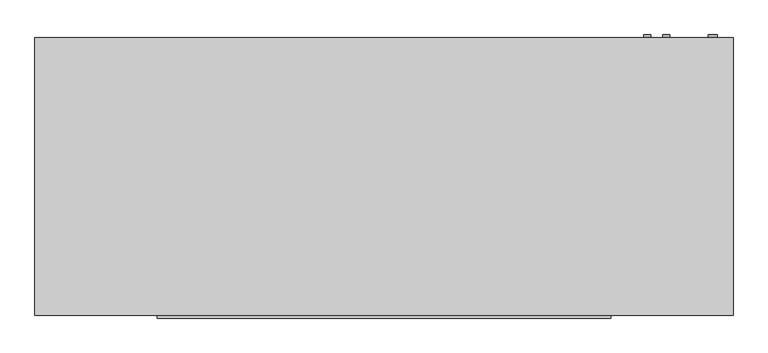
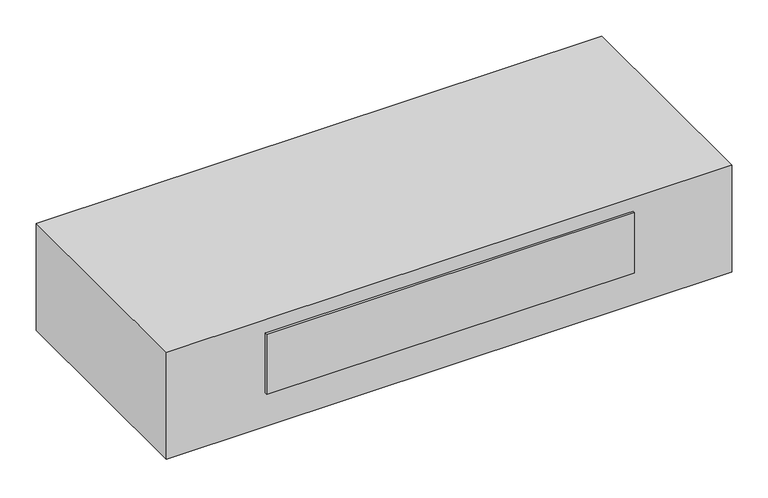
"""IFC4 building model written with IfcOpenShell, lengths in millimetres: proxy geometry, Exposed_Horizontal_Fan_Coil_Unit_-_42CGB_-_CARRIER_-_2-Pipe_Cool-EHeat_FS-BR_RH_2022 : Size 08 - 277v/60Hz/1Ph - 4 Row 6.0kW."""

import ifcopenshell
import ifcopenshell.guid

model = None  # the IFC model being written
_history = None  # IfcOwnerHistory: only IFC2X3 demands one
_inside = {}  # id of a spatial element -> (the spatial element, [elements in it])
_under = {}  # id of a project, library or spatial element -> (it, [spatial elements below it])
_declared = {}  # id of a project -> (the project, [libraries it declares])
_typed = {}  # id of a type object -> (the type object, [elements of that type])
_made_of = {}  # id of a material, layer set ... -> (it, [elements and type objects made of it])


def new_model(schema):
    """Start an empty IFC model of exactly this schema.

    Asked for "IFC4X3", IfcOpenShell would pick the latest addendum, in which some entities
    have other attributes; the version numbers below select the first issue.
    IFC2X3 requires an IfcOwnerHistory on every rooted entity: one is made here for all.
    """
    global model, _history
    if schema == "IFC4X3":
        model = ifcopenshell.file(schema_version=(4, 3, 0, 0))
    else:
        model = ifcopenshell.file(schema=schema)
    _inside.clear()
    _under.clear()
    _declared.clear()
    _typed.clear()
    _made_of.clear()
    _history = None
    if model.schema == "IFC2X3":
        org = make("IfcOrganization", Name="unknown")
        user = make(
            "IfcPersonAndOrganization",
            ThePerson=make("IfcPerson", FamilyName="unknown"),
            TheOrganization=org,
        )
        app = make(
            "IfcApplication",
            ApplicationDeveloper=org,
            Version="unknown",
            ApplicationFullName="unknown",
            ApplicationIdentifier="unknown",
        )
        _history = make(
            "IfcOwnerHistory",
            OwningUser=user,
            OwningApplication=app,
            ChangeAction="ADDED",
            CreationDate=0,
        )
    return model


def make(cls, **values):
    """One entity of the class cls with the attributes given. An attribute that is None is left unset."""
    return model.create_entity(
        cls, **{name: value for name, value in values.items() if value is not None}
    )


def rooted(cls, **values):
    """An entity with a GlobalId (a new one), such as an element, a storey or a relation."""
    return make(cls, GlobalId=ifcopenshell.guid.new(), OwnerHistory=_history, **values)


def si_unit(unit_type, name, prefix=None):
    """IfcSIUnit, for example si_unit("LENGTHUNIT", "METRE", prefix="MILLI")."""
    return make("IfcSIUnit", UnitType=unit_type, Prefix=prefix, Name=name)


def assignment(units):
    """IfcUnitAssignment: the units of a project."""
    return None if units is None else make("IfcUnitAssignment", Units=units)


def point(xyz):
    """IfcCartesianPoint."""
    return None if xyz is None else make("IfcCartesianPoint", Coordinates=xyz)


def direction(xyz):
    """IfcDirection."""
    return None if xyz is None else make("IfcDirection", DirectionRatios=xyz)


def frame(location, z_axis=None, x_axis=None):
    """IfcAxis2Placement3D, a coordinate frame: its origin and axes. An axis left out is left unset."""
    return make(
        "IfcAxis2Placement3D",
        Location=point(location),
        Axis=direction(z_axis),
        RefDirection=direction(x_axis),
    )


def frame_2d(location, x_axis=None):
    """IfcAxis2Placement2D, a coordinate frame in the plane: its origin and x axis."""
    return make(
        "IfcAxis2Placement2D", Location=point(location), RefDirection=direction(x_axis)
    )


def origin():
    """The frame at (0, 0, 0) with its axes left unset."""
    return frame((0.0, 0.0, 0.0))


def place(relative_to, where):
    """IfcLocalPlacement: puts the frame where relative to a parent placement (None: the world)."""
    return make(
        "IfcLocalPlacement", PlacementRelTo=relative_to, RelativePlacement=where
    )


def context(
    kind, dimensions, precision=None, world=None, true_north=None, identifier=None
):
    """IfcGeometricRepresentationContext, for example the 3D "Model" context."""
    return make(
        "IfcGeometricRepresentationContext",
        ContextIdentifier=identifier,
        ContextType=kind,
        CoordinateSpaceDimension=dimensions,
        Precision=precision,
        WorldCoordinateSystem=world,
        TrueNorth=true_north,
    )


def project(units=None, contexts=None):
    """IfcProject with its units and contexts."""
    return rooted(
        "IfcProject",
        Name="project",
        RepresentationContexts=contexts,
        UnitsInContext=assignment(units),
    )


def spatial(cls, under=None, at=None, **own):
    """A site, building, storey or space (cls), placed at a placement, below another one or the project."""
    s = rooted(cls, ObjectPlacement=at, **own)
    if under is not None:
        _under.setdefault(under.id(), (under, []))[1].append(s)
    return s


def polyline(points):
    """IfcPolyline through the points."""
    return make("IfcPolyline", Points=[point(p) for p in points])


def circle_curve(where, radius):
    """IfcCircle in the frame where."""
    return make("IfcCircle", Position=where, Radius=radius)


def trimmed(basis, trim1, trim2, sense, master):
    """IfcTrimmedCurve: the piece of a basis curve between two trims."""
    return make(
        "IfcTrimmedCurve",
        BasisCurve=basis,
        Trim1=trim1,
        Trim2=trim2,
        SenseAgreement=sense,
        MasterRepresentation=master,
    )


def segment(curve, same_sense, transition):
    """IfcCompositeCurveSegment."""
    return make(
        "IfcCompositeCurveSegment",
        Transition=transition,
        SameSense=same_sense,
        ParentCurve=curve,
    )


def composite_curve(segments, self_intersect=None):
    """IfcCompositeCurve: segments joined end to end."""
    return make("IfcCompositeCurve", Segments=segments, SelfIntersect=self_intersect)


def outline(outer, holes=None, kind="AREA"):
    """IfcArbitraryClosedProfileDef: a profile drawn as a closed curve; with holes, ...WithVoids."""
    if holes is None:
        return make("IfcArbitraryClosedProfileDef", ProfileType=kind, OuterCurve=outer)
    return make(
        "IfcArbitraryProfileDefWithVoids",
        ProfileType=kind,
        OuterCurve=outer,
        InnerCurves=holes,
    )


def extrude(swept, where, along, depth):
    """IfcExtrudedAreaSolid: the profile swept, set in the frame where, extruded along a direction by depth."""
    return make(
        "IfcExtrudedAreaSolid",
        SweptArea=swept,
        Position=where,
        ExtrudedDirection=direction(along),
        Depth=depth,
    )


def shape(context_of_items, identifier, shape_type, items):
    """IfcShapeRepresentation: the items that make up one representation, for example the "Body"."""
    return make(
        "IfcShapeRepresentation",
        ContextOfItems=context_of_items,
        RepresentationIdentifier=identifier,
        RepresentationType=shape_type,
        Items=items,
    )


def source(mapping_origin, context_of_items, identifier, shape_type, items):
    """IfcRepresentationMap: a shape defined once, which mapped items show again and again."""
    return make(
        "IfcRepresentationMap",
        MappingOrigin=mapping_origin,
        MappedRepresentation=shape(context_of_items, identifier, shape_type, items),
    )


def transform(
    local_origin,
    x_axis=None,
    y_axis=None,
    z_axis=None,
    scale=None,
    scale2=None,
    scale3=None,
    uniform=True,
):
    """IfcCartesianTransformationOperator3D, or its non-uniform kind. x_axis, y_axis, z_axis: its Axis1, 2, 3."""
    if uniform:
        return make(
            "IfcCartesianTransformationOperator3D",
            Axis1=direction(x_axis),
            Axis2=direction(y_axis),
            LocalOrigin=point(local_origin),
            Scale=scale,
            Axis3=direction(z_axis),
        )
    return make(
        "IfcCartesianTransformationOperator3DnonUniform",
        Axis1=direction(x_axis),
        Axis2=direction(y_axis),
        LocalOrigin=point(local_origin),
        Scale=scale,
        Axis3=direction(z_axis),
        Scale2=scale2,
        Scale3=scale3,
    )


def mapped(mapping_source, mapping_target):
    """IfcMappedItem: shows the shape of a source again, moved by a transform."""
    return make(
        "IfcMappedItem", MappingSource=mapping_source, MappingTarget=mapping_target
    )


def made_of(thing, what):
    """Note that an element or type object is made of a material, layer set ...; save() writes the relation."""
    if what is not None:
        _made_of.setdefault(what.id(), (what, []))[1].append(thing)
    return thing


def element(
    cls,
    number,
    at=None,
    inside=None,
    cuts=None,
    type_object=None,
    material=None,
    context=None,
    identifier="Body",
    shape_type=None,
    held_by="IfcProductDefinitionShape",
    body=None,
    shapes=None,
    **own,
):
    """One element of the class cls, such as IfcWall. Its Tag is "e" and its number.

    at: its placement. inside: the storey or other place that contains it. cuts: it is an
    opening in that element (IfcRelVoidsElement). A single representation is given by context,
    identifier, shape_type and body (its items); several are given by shapes. held_by: the class
    of the entity that holds the representations. save() writes the other relations.
    """
    e = rooted(cls, Tag="e%d" % number, ObjectPlacement=at, **own)
    if body is not None:
        shapes = [shape(context, identifier, shape_type, body)]
    if shapes is not None:
        e.Representation = make(held_by, Representations=shapes)
    if inside is not None:
        _inside.setdefault(inside.id(), (inside, []))[1].append(e)
    if cuts is not None:
        rooted(
            "IfcRelVoidsElement", RelatingBuildingElement=cuts, RelatedOpeningElement=e
        )
    if type_object is not None:
        _typed.setdefault(type_object.id(), (type_object, []))[1].append(e)
    return made_of(e, material)


def aggregate(whole, parts):
    """IfcRelAggregates: a whole, such as a stair, and the parts it consists of."""
    return rooted("IfcRelAggregates", RelatingObject=whole, RelatedObjects=parts)


def save(model, path):
    """Write the relations noted so far, then the file.

    IfcRelAggregates (storeys below a building ...), IfcRelContainedInSpatialStructure (elements
    in a storey), IfcRelDefinesByType, IfcRelAssociatesMaterial and IfcRelDeclares: one each for
    every whole, place, type object, material and project.
    """
    for whole, parts in _under.values():
        aggregate(whole, parts)
    for where, things in _inside.values():
        rooted(
            "IfcRelContainedInSpatialStructure",
            RelatedElements=things,
            RelatingStructure=where,
        )
    for kind, things in _typed.values():
        rooted("IfcRelDefinesByType", RelatedObjects=things, RelatingType=kind)
    for what, things in _made_of.values():
        rooted("IfcRelAssociatesMaterial", RelatedObjects=things, RelatingMaterial=what)
    for by, libraries in _declared.values():
        rooted("IfcRelDeclares", RelatingContext=by, RelatedDefinitions=libraries)
    model.write(path)


def mechanical_equipment_21327851(model_context):
    return source(origin(), model_context, "Body", "SweptSolid", [
        extrude(outline(composite_curve([segment(trimmed(circle_curve(frame_2d((-60.325, 727.075)), 7.9375), [point((-60.325, 735.0125))], [point((-60.325, 719.1375))], False, "CARTESIAN"), True, "CONTINUOUS"), segment(trimmed(circle_curve(frame_2d((-60.325, 727.075)), 7.9375), [point((-60.325, 719.1375))], [point((-60.325, 735.0125))], False, "CARTESIAN"), True, "CONTINUOUS")], self_intersect=False)), frame((0.0, 65.0875, 0.0), z_axis=(0.0, 1.0, 0.0), x_axis=(0.0, 0.0, 1.0)), (0.0, 0.0, 1.0), 6.35),
        extrude(outline(composite_curve([segment(trimmed(circle_curve(frame_2d((-95.25, 768.35)), 7.9375), [point((-95.25, 776.2875))], [point((-95.25, 760.4125))], False, "CARTESIAN"), True, "CONTINUOUS"), segment(trimmed(circle_curve(frame_2d((-95.25, 768.35)), 7.9375), [point((-95.25, 760.4125))], [point((-95.25, 776.2875))], False, "CARTESIAN"), True, "CONTINUOUS")], self_intersect=False)), frame((0.0, 65.0875, 0.0), z_axis=(0.0, 1.0, 0.0), x_axis=(0.0, 0.0, 1.0)), (0.0, 0.0, 1.0), 6.35),
        extrude(outline(composite_curve([segment(trimmed(circle_curve(frame_2d((-260.35, 869.95)), 9.525), [point((-260.35, 879.475))], [point((-260.35, 860.425))], False, "CARTESIAN"), True, "CONTINUOUS"), segment(trimmed(circle_curve(frame_2d((-260.35, 869.95)), 9.525), [point((-260.35, 860.425))], [point((-260.35, 879.475))], False, "CARTESIAN"), True, "CONTINUOUS")], self_intersect=False)), frame((0.0, 65.0875, 0.0), z_axis=(0.0, 1.0, 0.0), x_axis=(0.0, 0.0, 1.0)), (0.0, 0.0, 1.0), 6.35),
        extrude(outline(polyline([(-609.6, 65.0875), (914.4, 65.0875), (914.4, -541.3375), (-609.6, -541.3375), (-609.6, 65.0875)])), frame((0.0, 0.0, -304.8), z_axis=(0.0, 0.0, 1.0), x_axis=(1.0, 0.0, 0.0)), (0.0, 0.0, 1.0), 304.8),
        extrude(outline(polyline([(647.7, -547.6875), (-342.9, -547.6875), (-342.9, -541.3375), (647.7, -541.3375), (647.7, -547.6875)])), frame((0.0, 0.0, -209.55), z_axis=(0.0, 0.0, 1.0), x_axis=(1.0, 0.0, 0.0)), (0.0, 0.0, 1.0), 171.45),
        extrude(outline(polyline([(673.1, -11.1125), (673.1, -265.1125), (-368.3, -265.1125), (-368.3, -11.1125), (673.1, -11.1125)])), frame((0.0, 0.0, -311.15), z_axis=(0.0, 0.0, 1.0), x_axis=(1.0, 0.0, 0.0)), (0.0, 0.0, 1.0), 6.35),
    ])


if __name__ == "__main__":
    model = new_model("IFC4")
    model_context = context("Model", 3, world=origin())
    ifc_project = project(units=[si_unit("LENGTHUNIT", "METRE", prefix="MILLI")], contexts=[model_context])
    site = spatial("IfcSite", under=ifc_project)
    building = spatial("IfcBuilding", under=site)
    placement = place(None, origin())
    mechanical_equipment_shape = mechanical_equipment_21327851(model_context)
    element("IfcBuildingElementProxy", 1, Name="Exposed_Horizontal_Fan_Coil_Unit_-_42CGB_-_CARRIER_-_2-Pipe_Cool-EHeat_FS-BR_RH_2022 : Size 08 - 277v/60Hz/1Ph - 4 Row 6.0kW", ObjectType="Exposed_Horizontal_Fan_Coil_Unit_-_42CGB_-_CARRIER_-_2-Pipe_Cool-EHeat_FS-BR_RH_2022 : Size 08 - 277v/60Hz/1Ph - 4 Row 6.0kW", at=placement, inside=building, context=model_context, shape_type="MappedRepresentation", body=[
        mapped(mechanical_equipment_shape, transform((0.0, 0.0, 0.0), x_axis=(1.0, 0.0, 0.0), y_axis=(0.0, 1.0, 0.0), z_axis=(0.0, 0.0, 1.0))),
    ])
    save(model, "model.ifc")
